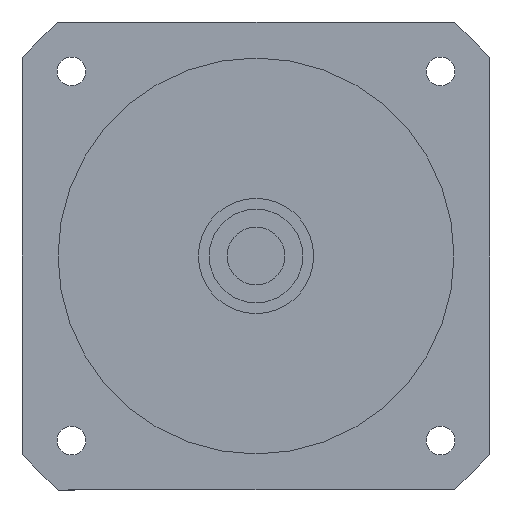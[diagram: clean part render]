
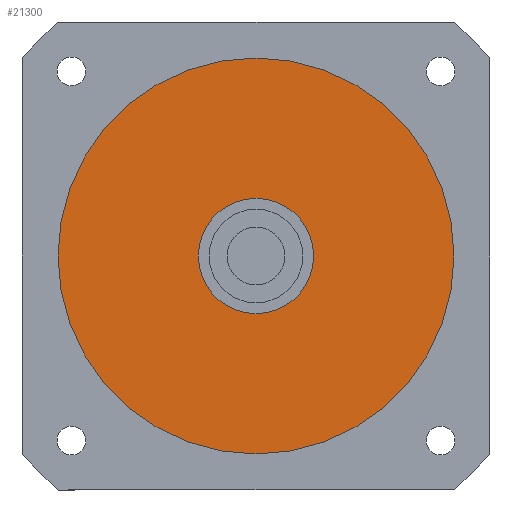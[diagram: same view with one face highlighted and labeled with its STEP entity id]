
A CAD part, left-side view. The second image highlights one B-rep face of the part: STEP entity #21300.
In plain terms, the highlighted planar face has unit normal (-1, 0, 0) as drawn and (0, 0, -1) by its records, which use the part's own axes.
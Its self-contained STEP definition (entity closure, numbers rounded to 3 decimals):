
#20720=CARTESIAN_POINT('',(-55.,0.,-111.));
#20730=VERTEX_POINT('',#20720);
#20820=CARTESIAN_POINT('',(55.,0.,-111.));
#20830=VERTEX_POINT('',#20820);
#20860=CARTESIAN_POINT('',(0.,0.,
-111.));
#20870=DIRECTION('',(0.,0.,1.));
#20880=DIRECTION('',(0.,-1.,0.));
#20890=AXIS2_PLACEMENT_3D('',#20860,#20870,#20880);
#20900=CIRCLE('',#20890,55.);
#20910=CARTESIAN_POINT('',(0.,-55.,-111.));
#20920=VERTEX_POINT('',#20910);
#20930=EDGE_CURVE('',#20920,#20830,#20900,.T.);
#20950=EDGE_CURVE('',#20730,#20920,#20900,.T.);
#21000=CARTESIAN_POINT('',(0.,0.,
-111.));
#21010=DIRECTION('',(0.,0.,1.));
#21020=DIRECTION('',(-1.,0.,0.));
#21030=AXIS2_PLACEMENT_3D('',#21000,#21010,#21020);
#21040=PLANE('',#21030);
#21050=CARTESIAN_POINT('',(0.,0.,
-111.));
#21060=DIRECTION('',(0.,0.,1.));
#21070=DIRECTION('',(0.,-1.,0.));
#21080=AXIS2_PLACEMENT_3D('',#21050,#21060,#21070);
#21090=CIRCLE('',#21080,16.);
#21100=CARTESIAN_POINT('',(16.,0.,-111.));
#21110=VERTEX_POINT('',#21100);
#21120=CARTESIAN_POINT('',(-16.,0.,-111.));
#21130=VERTEX_POINT('',#21120);
#21140=EDGE_CURVE('',#21110,#21130,#21090,.T.);
#21150=ORIENTED_EDGE('',*,*,#21140,.T.);
#21160=CARTESIAN_POINT('',(0.,-16.,-111.));
#21170=VERTEX_POINT('',#21160);
#21180=EDGE_CURVE('',#21170,#21110,#21090,.T.);
#21190=ORIENTED_EDGE('',*,*,#21180,.T.);
#21200=EDGE_CURVE('',#21130,#21170,#21090,.T.);
#21210=ORIENTED_EDGE('',*,*,#21200,.T.);
#21220=EDGE_LOOP('',(#21210,#21190,#21150));
#21230=FACE_BOUND('',#21220,.T.);
#21240=ORIENTED_EDGE('',*,*,#20930,.F.);
#21250=EDGE_CURVE('',#20830,#20730,#20900,.T.);
#21260=ORIENTED_EDGE('',*,*,#21250,.F.);
#21270=ORIENTED_EDGE('',*,*,#20950,.F.);
#21280=EDGE_LOOP('',(#21270,#21260,#21240));
#21290=FACE_OUTER_BOUND('',#21280,.T.);
#21300=ADVANCED_FACE('',(#21230,#21290),#21040,.F.);
